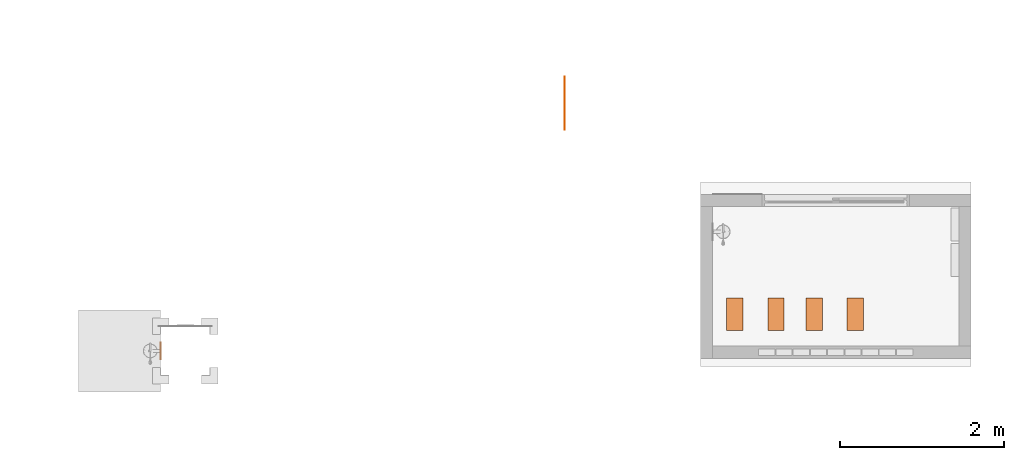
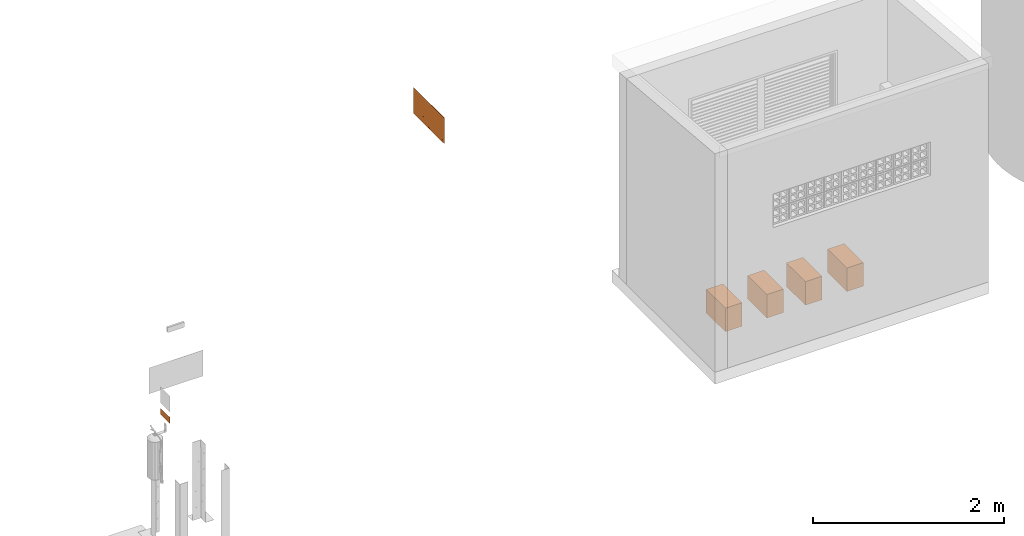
# One storey, part 107 of 119: 6 proxies.
"""IFC2X3 building model written with IfcOpenShell, lengths in metres."""

from ifc_helpers import new_model, entity, si_unit, converted_unit, derived_unit, direction, frame, frame_2d, origin, origin_2d_with_axis, place, context, subcontext, project, spatial, polyline, circle_curve, parameter, trimmed, segment, composite_curve, rectangle, outline, extrude, source, transform, mapped, material, material_list, type_object, type_shapes, element, save


model = new_model("IFC2X3")

# Units and contexts
model_context = context("Model", 3, precision=1e-05, world=origin(), true_north=direction((6.12303176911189e-17, 1.0)))
body_context = subcontext(model_context, "Body", "Model", "MODEL_VIEW")
ifc_project = project(units=[si_unit("LENGTHUNIT", "METRE"), si_unit("AREAUNIT", "SQUARE_METRE"), si_unit("VOLUMEUNIT", "CUBIC_METRE"), converted_unit("PLANEANGLEUNIT", "DEGREE", entity("IfcRatioMeasure", 0.0174532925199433), si_unit("PLANEANGLEUNIT", "RADIAN"), dimensions=[0, 0, 0, 0, 0, 0, 0]), si_unit("MASSUNIT", "GRAM", prefix="KILO"), derived_unit("MASSDENSITYUNIT", [(si_unit("MASSUNIT", "GRAM", prefix="KILO"), 1), (si_unit("LENGTHUNIT", "METRE"), -3)]), derived_unit("MOMENTOFINERTIAUNIT", [(si_unit("LENGTHUNIT", "METRE"), 4)]), si_unit("TIMEUNIT", "SECOND"), si_unit("FREQUENCYUNIT", "HERTZ"), si_unit("THERMODYNAMICTEMPERATUREUNIT", "DEGREE_CELSIUS"), derived_unit("THERMALTRANSMITTANCEUNIT", [(si_unit("MASSUNIT", "GRAM", prefix="KILO"), 1), (si_unit("THERMODYNAMICTEMPERATUREUNIT", "KELVIN"), -1), (si_unit("TIMEUNIT", "SECOND"), -3)]), derived_unit("VOLUMETRICFLOWRATEUNIT", [(si_unit("LENGTHUNIT", "METRE"), 3), (si_unit("TIMEUNIT", "SECOND"), -1)]), si_unit("ELECTRICCURRENTUNIT", "AMPERE"), si_unit("ELECTRICVOLTAGEUNIT", "VOLT"), si_unit("POWERUNIT", "WATT"), si_unit("FORCEUNIT", "NEWTON", prefix="KILO"), si_unit("ILLUMINANCEUNIT", "LUX"), si_unit("LUMINOUSFLUXUNIT", "LUMEN"), si_unit("LUMINOUSINTENSITYUNIT", "CANDELA"), derived_unit("USERDEFINED", [(si_unit("MASSUNIT", "GRAM", prefix="KILO"), -1), (si_unit("LENGTHUNIT", "METRE"), -2), (si_unit("TIMEUNIT", "SECOND"), 3), (si_unit("LUMINOUSFLUXUNIT", "LUMEN"), 1)]), derived_unit("LINEARVELOCITYUNIT", [(si_unit("LENGTHUNIT", "METRE"), 1), (si_unit("TIMEUNIT", "SECOND"), -1)]), si_unit("PRESSUREUNIT", "PASCAL"), derived_unit("USERDEFINED", [(si_unit("LENGTHUNIT", "METRE"), -2), (si_unit("MASSUNIT", "GRAM", prefix="KILO"), 1), (si_unit("TIMEUNIT", "SECOND"), -2)]), derived_unit("LINEARFORCEUNIT", [(si_unit("MASSUNIT", "GRAM", prefix="KILO"), 1), (si_unit("LENGTHUNIT", "METRE"), 1), (si_unit("TIMEUNIT", "SECOND"), -2), (si_unit("LENGTHUNIT", "METRE"), -1)]), derived_unit("PLANARFORCEUNIT", [(si_unit("MASSUNIT", "GRAM", prefix="KILO"), 1), (si_unit("LENGTHUNIT", "METRE"), 1), (si_unit("TIMEUNIT", "SECOND"), -2), (si_unit("LENGTHUNIT", "METRE"), -2)])], contexts=[model_context])

# Site, building, storey
site_placement = place(None, origin())
site = spatial("IfcSite", under=ifc_project, at=site_placement, Name="Default", CompositionType="ELEMENT")
building_placement = place(site_placement, origin())
building = spatial("IfcBuilding", under=site, at=building_placement, CompositionType="ELEMENT")
storey_placement = place(building_placement, origin())
storey = spatial("IfcBuildingStorey", under=building, at=storey_placement, Name="PAV. 01 - TÉRREO", CompositionType="ELEMENT", Elevation=0.0)

# Proxies
building_element_proxy_type_1 = type_object("IfcBuildingElementProxyType", Name="Equipamento - Bomba de Incêndio:Bomba de Incêndio Genérica", PredefinedType="NOTDEFINED")
shared_shape_1 = source(origin(), body_context, "Body", "SweptSolid", [
    extrude(rectangle(XDim=0.2, YDim=0.4, at=origin_2d_with_axis()), frame((0.0, 0.0, 0.2), z_axis=(0.0, 0.0, 1.0), x_axis=(-1.0, 0.0, 0.0)), (0.0, 0.0, 1.0), 0.3),
])
type_shapes(building_element_proxy_type_1, [shared_shape_1])
for number, where in (
    (1, (87.8709985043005, 32.3759577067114, 0.0)),
    (2, (88.3709985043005, 32.3759577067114, 0.0)),
    (3, (88.8363492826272, 32.3759577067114, 0.0)),
    (4, (89.3363492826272, 32.3759577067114, 0.0)),
):
    element("IfcBuildingElementProxy", number, at=place(storey_placement, frame(where)), inside=storey, type_object=building_element_proxy_type_1, Name="Equipamento - Bomba de Incêndio:Bomba de Incêndio Genérica", ObjectType="Equipamento - Bomba de Incêndio:Bomba de Incêndio Genérica", context=body_context, shape_type="MappedRepresentation", body=[
        mapped(shared_shape_1, transform((0.0, 0.0, 0.0), scale=1.0)),
    ])
ifc_material_1 = material(Name="Plastico branco")
ifc_material_2 = material(Name="Plastico Verde")
ifc_material_list_1 = material_list([ifc_material_1, ifc_material_2])
building_element_proxy_type_2 = type_object("IfcBuildingElementProxyType", Name="Sinalização de orientação - S02 - Indicação do sentido da saída de emergência esquerda:Distância 20m", PredefinedType="NOTDEFINED", material=ifc_material_1)
shared_shape_2 = source(origin(), body_context, "Body", "SweptSolid", [
    extrude(outline(polyline([(-0.0447808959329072, -0.0403053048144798), (-0.043171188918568, -0.0403053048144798), (-0.0413200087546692, -0.0389366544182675), (-0.0392890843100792, -0.0364788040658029), (-0.0371401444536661, -0.033211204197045), (-0.0349349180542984, -0.0294133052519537), (-0.0265856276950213, -0.0138527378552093), (-0.0227430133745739, -0.00709511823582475), (-0.0208230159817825, -0.00397540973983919), (-0.0188699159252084, -0.00102040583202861), (-0.0168582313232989, 0.00177591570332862), (-0.0147624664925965, 0.00441959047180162), (-0.0125318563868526, 0.00694116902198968), (-0.0100380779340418, 0.00944644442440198), (-0.00713797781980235, 0.0120555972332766), (-0.00368840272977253, 0.0148888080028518), (0.000453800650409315, 0.018066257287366), (0.0268119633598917, 0.0366220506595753), (0.00900823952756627, 0.0460096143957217), (0.00759831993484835, 0.0467239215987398), (0.00663979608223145, 0.0471861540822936), (0.00601886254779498, 0.047454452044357), (0.00562171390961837, 0.0475869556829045), (0.005334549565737, 0.047641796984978), (0.00505495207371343, 0.0476577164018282), (0.00471625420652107, 0.047612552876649), (0.00425878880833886, 0.0474722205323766), (0.00362288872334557, 0.0472026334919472), (0.00274888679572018, 0.046769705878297), (0.00157711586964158, 0.0461393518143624), (-0.0256767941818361, 0.0298988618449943), (-0.0282489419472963, 0.0288779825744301), (-0.0306367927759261, 0.0282861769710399), (-0.0328328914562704, 0.028086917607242), (-0.0348297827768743, 0.0282436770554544), (-0.0366200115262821, 0.0287199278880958), (-0.0381961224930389, 0.0294791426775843), (-0.0395506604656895, 0.0304847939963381), (-0.0406761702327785, 0.0317003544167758), (-0.041565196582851, 0.0330892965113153), (-0.0422102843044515, 0.0346150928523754), (-0.0426039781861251, 0.036241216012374), (-0.0427388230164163, 0.0379311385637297), (-0.0426073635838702, 0.0396483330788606), (-0.0422021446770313, 0.0413562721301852), (-0.0415157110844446, 0.0430184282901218), (-0.040540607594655, 0.0445982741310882), (-0.0392693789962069, 0.0460592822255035), (-0.0376945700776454, 0.0473649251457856), (-0.020544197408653, 0.0580635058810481), (-0.00936529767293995, 0.0647230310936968), (-0.00237080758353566, 0.0682051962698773), (0.00222633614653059, 0.0693716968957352), (0.00619530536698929, 0.069077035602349), (0.0105721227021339, 0.0678809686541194), (0.0154180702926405, 0.0659513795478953), (0.0207269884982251, 0.0634290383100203), (0.0636286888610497, 0.0407952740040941), (0.0681400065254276, 0.0382962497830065), (0.0719015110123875, 0.0357625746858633), (0.0750089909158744, 0.032796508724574), (0.0775582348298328, 0.0290003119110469), (0.0796450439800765, 0.0239762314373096), (0.0814169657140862, 0.0172739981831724), (0.0831911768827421, 0.00827118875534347), (0.0881539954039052, -0.0192667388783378), (0.114405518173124, -0.0331658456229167), (0.169612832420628, 0.0711053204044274), (0.00387253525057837, 0.158858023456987), (-0.0853121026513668, -0.00958679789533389), (-0.0933374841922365, -0.00533768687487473), (-0.141866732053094, -0.0260508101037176), (-0.104503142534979, -0.0458333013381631), (-0.122153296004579, -0.0791695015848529), (-0.150380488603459, -0.0881243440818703), (-0.0339389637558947, -0.149775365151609), (-0.00485925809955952, -0.141271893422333), (0.0203339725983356, -0.154610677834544), (-0.0128105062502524, -0.160962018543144), (0.0158595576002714, -0.176141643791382), (0.043587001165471, -0.166922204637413), (0.104490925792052, -0.0518917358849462), (0.0750538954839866, -0.0363119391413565), (0.0725734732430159, -0.034899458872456), (0.0706715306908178, -0.0335889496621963), (0.0692214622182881, -0.0322141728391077), (0.0680966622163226, -0.0306088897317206), (0.0671705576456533, -0.0286069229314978), (0.0663377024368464, -0.0260818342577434), (0.0655501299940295, -0.0230153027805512), (0.0647695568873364, -0.0194072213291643), (0.060951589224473, 0.000442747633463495), (0.0287102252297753, -0.0230602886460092), (0.0246142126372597, -0.146526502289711), (-0.000579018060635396, -0.133187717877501), (-0.00053001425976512, -0.0237630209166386), (-0.0206753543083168, -0.0530682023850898), (-0.0230063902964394, -0.0567384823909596), (-0.0251862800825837, -0.0599201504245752), (-0.027294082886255, -0.0625984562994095), (-0.0294088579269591, -0.0647586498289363), (-0.0316096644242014, -0.0663859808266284), (-0.0339755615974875, -0.0674656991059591), (-0.0365856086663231, -0.0679830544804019), (-0.0395188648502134, -0.0679232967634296), (-0.0428543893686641, -0.0672716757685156), (-0.0466712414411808, -0.0660134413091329), (-0.051048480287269, -0.0641338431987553), (-0.0560651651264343, -0.0616181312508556), (-0.118768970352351, -0.0284190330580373), (-0.0891409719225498, -0.0168184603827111), (-0.0447808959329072, -0.0403053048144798)]), holes=[composite_curve([segment(trimmed(circle_curve(frame_2d((0.0860212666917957, 0.0597350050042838), x_axis=(0.883770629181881, -0.467920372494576)), 0.0222863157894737), [parameter(180.0)], [parameter(0.0)], True, "PARAMETER"), False, "CONTINUOUS"), segment(trimmed(circle_curve(frame_2d((0.0860212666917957, 0.0597350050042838), x_axis=(0.883770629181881, -0.467920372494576)), 0.0222863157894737), [parameter(3.56222124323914e-13)], [parameter(180.0)], True, "PARAMETER"), False, "CONTINUOUS")], self_intersect=False)]), frame((0.18787689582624, -0.00110000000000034, 1.9685208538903), z_axis=(0.0, 1.0, 0.0), x_axis=(-0.883770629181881, 0.0, 0.467920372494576)), (0.0, 0.0, 1.0), 0.0011),
    extrude(outline(polyline([(-0.323500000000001, -0.165500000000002), (0.323500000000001, -0.165500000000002), (0.323500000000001, 0.165500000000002), (-0.323500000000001, 0.165500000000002), (-0.323500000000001, -0.165500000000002)]), holes=[polyline([(-0.316000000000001, -0.158000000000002), (-0.316000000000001, 0.157999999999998), (0.315999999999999, 0.157999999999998), (0.315999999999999, -0.158000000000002), (-0.316000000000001, -0.158000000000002)])]), frame((0.0, -0.0011, 1.9655), z_axis=(0.0, 1.0, 0.0), x_axis=(1.0, 0.0, 0.0)), (0.0, 0.0, 1.0), 0.0011),
    extrude(rectangle(XDim=0.632, YDim=0.001, at=origin_2d_with_axis()), frame((0.0, -0.0005, 1.8075)), (0.0, 0.0, 1.0), 0.316000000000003),
    extrude(outline(polyline([(-0.0567986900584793, -0.0957978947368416), (0.0276564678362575, -0.0957978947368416), (-0.0363085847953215, -0.0318328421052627), (0.141749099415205, -0.0318328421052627), (0.141749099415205, 0.0318328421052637), (-0.0363085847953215, 0.0318328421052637), (0.0276564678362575, 0.0957978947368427), (-0.0567986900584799, 0.0957978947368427), (-0.152596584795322, 0.0), (-0.0567986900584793, -0.0957978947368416)])), frame((-0.141749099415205, -0.0011, 1.9655), z_axis=(0.0, 1.0, 0.0), x_axis=(1.0, 0.0, 0.0)), (0.0, 0.0, 1.0), 0.0011),
])
type_shapes(building_element_proxy_type_2, [shared_shape_2])
proxy_1_placement = place(storey_placement, frame((85.7990818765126, 34.9485484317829, 0.0), z_axis=(0.0, 0.0, 1.0), x_axis=(0.0, -1.0, 0.0)))
element("IfcBuildingElementProxy", 5, at=proxy_1_placement, inside=storey, type_object=building_element_proxy_type_2, material=ifc_material_list_1, Name="Sinalização de orientação - S02 - Indicação do sentido da saída de emergência esquerda:Distância 20m", ObjectType="Sinalização de orientação - S02 - Indicação do sentido da saída de emergência esquerda:Distância 20m", context=body_context, shape_type="MappedRepresentation", body=[
    mapped(shared_shape_2, transform((0.0, 0.0, 0.0), scale=1.0)),
])
ifc_material_3 = material(Name="Plastico Preto")
ifc_material_4 = material(Name="Plastico azul claro")
ifc_material_5 = material(Name="Plastico vermelho")
ifc_material_list_2 = material_list([ifc_material_3, ifc_material_4, ifc_material_5, ifc_material_1, ifc_material_2])
building_element_proxy_type_3 = type_object("IfcBuildingElementProxyType", Name="Sinalização de equipamentos - E05 - Extintor de incêndio - TIPO 2:Placa de extintor - E6-A", PredefinedType="NOTDEFINED", material=ifc_material_3)
shared_shape_3 = source(origin(), body_context, "Body", "SweptSolid", [
    extrude(rectangle(XDim=0.0243464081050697, YDim=0.001, at=origin_2d_with_axis()), frame((0.0791678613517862, 0.0005, 0.0143679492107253), z_axis=(0.0, 0.0, 1.0), x_axis=(-1.0, 0.0, 0.0)), (0.0, 0.0, 1.0), 0.0243153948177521),
    extrude(rectangle(XDim=0.0243464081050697, YDim=0.001, at=origin_2d_with_axis()), frame((0.0514092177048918, 0.0005, 0.0143679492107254), z_axis=(0.0, 0.0, 1.0), x_axis=(-1.0, 0.0, 0.0)), (0.0, 0.0, 1.0), 0.0243153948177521),
    extrude(rectangle(XDim=0.0243464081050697, YDim=0.001, at=origin_2d_with_axis()), frame((0.023605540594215, 0.0005, 0.0143679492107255), z_axis=(0.0, 0.0, 1.0), x_axis=(-1.0, 0.0, 0.0)), (0.0, 0.0, 1.0), 0.0243153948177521),
    extrude(rectangle(XDim=0.0243464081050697, YDim=0.001, at=origin_2d_with_axis()), frame((-0.00415310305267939, 0.0005, 0.0143679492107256), z_axis=(0.0, 0.0, 1.0), x_axis=(-1.0, 0.0, 0.0)), (0.0, 0.0, 1.0), 0.0243153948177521),
    extrude(outline(polyline([(-0.0399999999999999, -0.1), (0.0399999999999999, -0.1), (0.0399999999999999, 0.1), (-0.0399999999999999, 0.1), (-0.0399999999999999, -0.1)]), holes=[polyline([(-0.0319999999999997, 0.091), (-0.0150022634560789, 0.091), (-0.0150022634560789, -0.091), (-0.0319999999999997, -0.091), (-0.0319999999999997, 0.091)]), polyline([(-0.010791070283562, 0.091), (0.0319999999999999, 0.091), (0.0319999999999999, 0.0473282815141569), (-0.010791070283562, 0.0473282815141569), (-0.010791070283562, 0.091)]), polyline([(0.00131665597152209, 0.0441091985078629), (0.0256320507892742, 0.0441091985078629), (0.0256320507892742, 0.0197627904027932), (0.00131665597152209, 0.0197627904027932), (0.00131665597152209, 0.0441091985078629)]), polyline([(0.00131665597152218, 0.0163263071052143), (0.0256320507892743, 0.0163263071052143), (0.0256320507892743, -0.00802010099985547), (0.00131665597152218, -0.00802010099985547), (0.00131665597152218, 0.0163263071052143)]), polyline([(0.00131665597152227, -0.0114323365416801), (0.0256320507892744, -0.0114323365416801), (0.0256320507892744, -0.0357787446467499), (0.00131665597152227, -0.0357787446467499), (0.00131665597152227, -0.0114323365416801)]), polyline([(0.00131665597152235, -0.0635824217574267), (0.00131665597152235, -0.039236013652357), (0.0256320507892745, -0.039236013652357), (0.0256320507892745, -0.0635824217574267), (0.00131665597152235, -0.0635824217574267)]), polyline([(0.00131665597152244, -0.0669946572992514), (0.0256320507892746, -0.0669946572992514), (0.0256320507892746, -0.091), (0.00131665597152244, -0.091), (0.00131665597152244, -0.0669946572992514)])]), frame((0.0, 0.0, 0.0399999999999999), z_axis=(0.0, 1.0, 0.0), x_axis=(0.0, 0.0, -1.0)), (0.0, 0.0, 1.0), 0.001),
    extrude(outline(composite_curve([segment(trimmed(circle_curve(frame_2d((-0.00182713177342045, 0.0030692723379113), x_axis=(1.0, 0.0)), 0.00333179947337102), [parameter(180.0)], [parameter(270.0)], True, "PARAMETER"), True, "CONTINUOUS"), segment(polyline([(-0.00182713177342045, -0.000262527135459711), (-0.000430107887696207, -0.000262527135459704)]), True, "CONTINUOUS"), segment(polyline([(-0.000430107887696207, -0.000262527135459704), (-0.000430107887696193, -0.00350797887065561)]), True, "CONTINUOUS"), segment(polyline([(-0.000430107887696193, -0.00350797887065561), (-0.00249820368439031, -0.00350797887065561)]), True, "CONTINUOUS"), segment(polyline([(-0.00249820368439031, -0.00350797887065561), (-0.00742535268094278, 7.18044171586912e-05)]), True, "CONTINUOUS"), segment(polyline([(-0.00742535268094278, 7.18044171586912e-05), (-0.00742535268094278, 0.00166630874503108)]), True, "CONTINUOUS"), segment(polyline([(-0.00742535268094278, 0.00166630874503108), (-0.00871124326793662, 0.00166630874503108)]), True, "CONTINUOUS"), segment(polyline([(-0.00871124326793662, 0.00166630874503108), (-0.00846384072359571, -0.00134355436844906)]), True, "CONTINUOUS"), segment(trimmed(circle_curve(frame_2d((-0.00608099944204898, -0.00114769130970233), x_axis=(1.0, 0.0)), 0.00239087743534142), [parameter(184.698993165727)], [parameter(232.0)], True, "PARAMETER"), True, "CONTINUOUS"), segment(polyline([(-0.00755297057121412, -0.00303172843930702), (-0.0030496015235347, -0.00655014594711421)]), True, "CONTINUOUS"), segment(polyline([(-0.0030496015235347, -0.00655014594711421), (-0.000124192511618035, -0.00655014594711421)]), True, "CONTINUOUS"), segment(polyline([(-0.000124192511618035, -0.00655014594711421), (-0.000124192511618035, -0.00788602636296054)]), True, "CONTINUOUS"), segment(polyline([(-0.000124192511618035, -0.00788602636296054), (0.003207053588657, -0.00788602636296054)]), True, "CONTINUOUS"), segment(polyline([(0.003207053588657, -0.00788602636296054), (0.003207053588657, -0.00698801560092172)]), True, "CONTINUOUS"), segment(polyline([(0.003207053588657, -0.00698801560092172), (0.00540783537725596, -0.00698801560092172)]), True, "CONTINUOUS"), segment(polyline([(0.00540783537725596, -0.00698801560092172), (0.00665542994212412, -0.00574042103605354)]), True, "CONTINUOUS"), segment(polyline([(0.00665542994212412, -0.00574042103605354), (0.00665542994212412, -0.00450724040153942)]), True, "CONTINUOUS"), segment(polyline([(0.00665542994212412, -0.00450724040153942), (0.00491919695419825, -0.00324579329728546)]), True, "CONTINUOUS"), segment(polyline([(0.00491919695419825, -0.00324579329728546), (0.00355615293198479, -0.00324579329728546)]), True, "CONTINUOUS"), segment(polyline([(0.00355615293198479, -0.00324579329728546), (0.00355615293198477, -0.000262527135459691)]), True, "CONTINUOUS"), segment(polyline([(0.00355615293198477, -0.000262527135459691), (0.00500257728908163, -0.000262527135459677)]), True, "CONTINUOUS"), segment(trimmed(circle_curve(frame_2d((0.00500257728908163, 0.00284153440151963), x_axis=(1.0, 0.0)), 0.00310406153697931), [parameter(270.0)], [parameter(1.52666624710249e-13)], True, "PARAMETER"), True, "CONTINUOUS"), segment(polyline([(0.00810663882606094, 0.00284153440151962), (0.0081066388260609, 0.0313568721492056)]), True, "CONTINUOUS"), segment(polyline([(0.0081066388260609, 0.0313568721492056), (-0.00515893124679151, 0.0313568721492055)]), True, "CONTINUOUS"), segment(polyline([(-0.00515893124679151, 0.0313568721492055), (-0.00515893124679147, 0.00306927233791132)]), True, "CONTINUOUS")], self_intersect=False)), frame((-0.0705753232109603, 0.0, 0.0413479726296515), z_axis=(0.0, 1.0, 0.0), x_axis=(1.0, 0.0, 0.0)), (0.0, 0.0, 1.0), 0.001),
    extrude(rectangle(XDim=0.0243464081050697, YDim=0.001, at=origin_2d_with_axis()), frame((-0.0319359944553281, 0.0005, 0.0143679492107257), z_axis=(0.0, 0.0, 1.0), x_axis=(-1.0, 0.0, 0.0)), (0.0, 0.0, 1.0), 0.0243153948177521),
    extrude(outline(polyline([(-0.0218358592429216, -0.021395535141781), (0.0218358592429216, -0.021395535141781), (0.0218358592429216, 0.021395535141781), (-0.0218358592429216, 0.021395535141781), (-0.0218358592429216, -0.021395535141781)]), holes=[composite_curve([segment(polyline([(-0.00669545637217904, -0.0194044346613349), (-0.00669545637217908, 0.00911090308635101)]), True, "CONTINUOUS"), segment(trimmed(circle_curve(frame_2d((-0.00359139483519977, 0.00911090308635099), x_axis=(-1.0, 0.0)), 0.00310406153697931), [parameter(270.0)], [parameter(360.0)], True, "PARAMETER"), False, "CONTINUOUS"), segment(polyline([(-0.0035913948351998, 0.0122149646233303), (-0.00214497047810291, 0.0122149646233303)]), True, "CONTINUOUS"), segment(polyline([(-0.00214497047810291, 0.0122149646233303), (-0.00214497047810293, 0.0151982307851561)]), True, "CONTINUOUS"), segment(polyline([(-0.00214497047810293, 0.0151982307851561), (-0.0035080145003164, 0.0151982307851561)]), True, "CONTINUOUS"), segment(polyline([(-0.0035080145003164, 0.0151982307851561), (-0.00524424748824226, 0.01645967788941)]), True, "CONTINUOUS"), segment(polyline([(-0.00524424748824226, 0.01645967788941), (-0.00524424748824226, 0.0176928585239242)]), True, "CONTINUOUS"), segment(polyline([(-0.00524424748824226, 0.0176928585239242), (-0.0039966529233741, 0.0189404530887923)]), True, "CONTINUOUS"), segment(polyline([(-0.0039966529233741, 0.0189404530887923), (-0.00179587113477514, 0.0189404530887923)]), True, "CONTINUOUS"), segment(polyline([(-0.00179587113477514, 0.0189404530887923), (-0.00179587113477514, 0.0198384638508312)]), True, "CONTINUOUS"), segment(polyline([(-0.00179587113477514, 0.0198384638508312), (0.00153537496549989, 0.0198384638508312)]), True, "CONTINUOUS"), segment(polyline([(0.00153537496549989, 0.0198384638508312), (0.00153537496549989, 0.0185025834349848)]), True, "CONTINUOUS"), segment(polyline([(0.00153537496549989, 0.0185025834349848), (0.00446078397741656, 0.0185025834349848)]), True, "CONTINUOUS"), segment(polyline([(0.00446078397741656, 0.0185025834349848), (0.00896415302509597, 0.0149841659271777)]), True, "CONTINUOUS"), segment(trimmed(circle_curve(frame_2d((0.00749218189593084, 0.0131001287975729), x_axis=(-1.0, 0.0)), 0.00239087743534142), [parameter(184.698993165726)], [parameter(231.999999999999)], True, "PARAMETER"), False, "CONTINUOUS"), segment(polyline([(0.00987502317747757, 0.0132959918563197), (0.0101224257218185, 0.0102861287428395)]), True, "CONTINUOUS"), segment(polyline([(0.0101224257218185, 0.0102861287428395), (0.00883653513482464, 0.0102861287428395)]), True, "CONTINUOUS"), segment(polyline([(0.00883653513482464, 0.0102861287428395), (0.00883653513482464, 0.0118806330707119)]), True, "CONTINUOUS"), segment(polyline([(0.00883653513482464, 0.0118806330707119), (0.00390938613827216, 0.0154604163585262)]), True, "CONTINUOUS"), segment(polyline([(0.00390938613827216, 0.0154604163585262), (0.00184129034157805, 0.0154604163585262)]), True, "CONTINUOUS"), segment(polyline([(0.00184129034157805, 0.0154604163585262), (0.00184129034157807, 0.0122149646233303)]), True, "CONTINUOUS"), segment(polyline([(0.00184129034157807, 0.0122149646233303), (0.00323831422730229, 0.0122149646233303)]), True, "CONTINUOUS"), segment(trimmed(circle_curve(frame_2d((0.00323831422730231, 0.00888316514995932), x_axis=(-1.0, 0.0)), 0.00333179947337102), [parameter(180.0)], [parameter(270.0)], True, "PARAMETER"), False, "CONTINUOUS"), segment(polyline([(0.00657011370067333, 0.00888316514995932), (0.00657011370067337, -0.0194044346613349)]), True, "CONTINUOUS"), segment(polyline([(0.00657011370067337, -0.0194044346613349), (-0.00669545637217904, -0.0194044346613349)]), True, "CONTINUOUS")], self_intersect=False)]), frame((-0.0691641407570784, 0.0, 0.0293955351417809), z_axis=(0.0, 1.0, 0.0), x_axis=(-1.0, 0.0, 0.0)), (0.0, 0.0, 1.0), 0.001),
    extrude(rectangle(XDim=0.182, YDim=0.001, at=origin_2d_with_axis()), frame((0.0, 0.0005, 0.0550022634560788), z_axis=(0.0, 0.0, 1.0), x_axis=(-1.0, 0.0, 0.0)), (0.0, 0.0, 1.0), 0.0169977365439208),
])
type_shapes(building_element_proxy_type_3, [shared_shape_3])
proxy_2_placement = place(storey_placement, frame((80.8737817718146, 31.9286447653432, 1.65), z_axis=(0.0, 0.0, 1.0), x_axis=(0.0, 1.0, 0.0)))
element("IfcBuildingElementProxy", 6, at=proxy_2_placement, inside=storey, type_object=building_element_proxy_type_3, material=ifc_material_list_2, Name="Sinalização de equipamentos - E05 - Extintor de incêndio - TIPO 2:Placa de extintor - E6-A", ObjectType="Sinalização de equipamentos - E05 - Extintor de incêndio - TIPO 2:Placa de extintor - E6-A", context=body_context, shape_type="MappedRepresentation", body=[
    mapped(shared_shape_3, transform((0.0, 0.0, 0.0), scale=1.0)),
])

save(model, "model.ifc")
